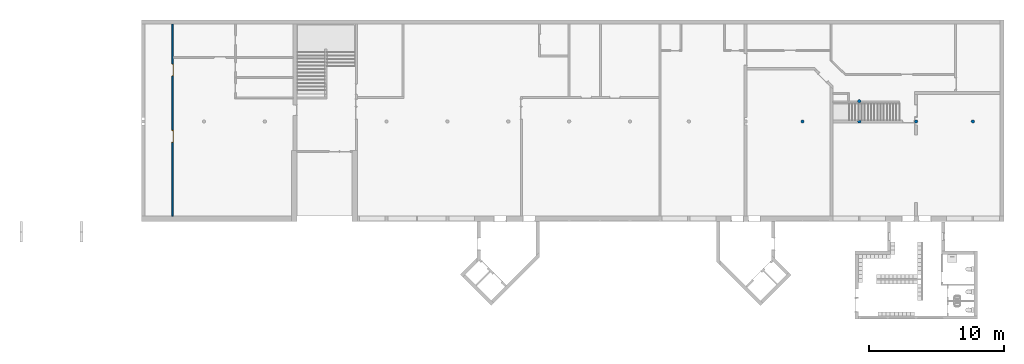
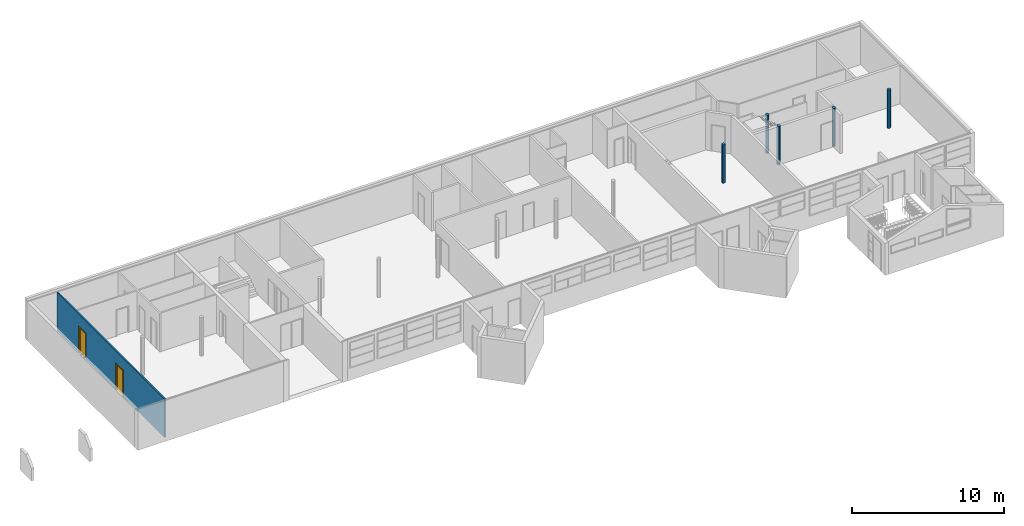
# One storey, part 6 of 25: 5 columns, 2 doors, 1 wall, 2 openings.
"""IFC2X3 building model written with IfcOpenShell, lengths in millimetres."""

from ifc_helpers import new_model, entity, si_unit, converted_unit, derived_unit, money_unit, direction, frame, origin_with_axes, place, context, subcontext, project, spatial, faceted_brep, source, transform, mapped, material, type_object, element, fill, save


model = new_model("IFC2X3")

# Units and contexts
model_context = context("Model", 3, precision=0.01, world=origin_with_axes(), true_north=direction((0.0, 1.0)))
body_context = subcontext(model_context, "Body", "Model", "MODEL_VIEW")
ifc_project = project(units=[si_unit("LENGTHUNIT", "METRE", prefix="MILLI"), si_unit("AREAUNIT", "SQUARE_METRE"), si_unit("VOLUMEUNIT", "CUBIC_METRE"), converted_unit("PLANEANGLEUNIT", "DEGREE", entity("IfcPlaneAngleMeasure", 0.0174532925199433), si_unit("PLANEANGLEUNIT", "RADIAN"), dimensions=[0, 0, 0, 0, 0, 0, 0]), money_unit("USD"), converted_unit("TIMEUNIT", "Year", entity("IfcTimeMeasure", 31557600.0), si_unit("TIMEUNIT", "SECOND"), dimensions=[0, 0, 1, 0, 0, 0, 0]), si_unit("MASSUNIT", "GRAM", prefix="KILO"), si_unit("THERMODYNAMICTEMPERATUREUNIT", "DEGREE_CELSIUS"), si_unit("LUMINOUSINTENSITYUNIT", "LUMEN"), si_unit("ENERGYUNIT", "JOULE", prefix="MEGA"), derived_unit("THERMALCONDUCTANCEUNIT", [(si_unit("POWERUNIT", "WATT"), 1), (si_unit("LENGTHUNIT", "METRE"), -1), (si_unit("THERMODYNAMICTEMPERATUREUNIT", "KELVIN"), -1)]), derived_unit("SPECIFICHEATCAPACITYUNIT", [(si_unit("ENERGYUNIT", "JOULE"), 1), (si_unit("MASSUNIT", "GRAM", prefix="KILO"), -1), (si_unit("THERMODYNAMICTEMPERATUREUNIT", "KELVIN"), -1)]), derived_unit("MASSDENSITYUNIT", [(si_unit("MASSUNIT", "GRAM", prefix="KILO"), 1), (si_unit("VOLUMEUNIT", "CUBIC_METRE"), -1)])], contexts=[model_context])

# Site, building, storey
site_placement = place(None, origin_with_axes())
site = spatial("IfcSite", under=ifc_project, at=site_placement, Name="Site", CompositionType="ELEMENT")
building_placement = place(site_placement, origin_with_axes())
building = spatial("IfcBuilding", under=site, at=building_placement, Name="Building", CompositionType="ELEMENT")
storey_placement = place(building_placement, origin_with_axes())
storey = spatial("IfcBuildingStorey", under=building, at=storey_placement, Name="U ETG", CompositionType="ELEMENT", Elevation=0.0)

# Columns
ifc_material_1 = material(Name="GENERIC - STRUCTURAL")
column_type = type_object("IfcColumnType", Name="GENERIC - STRUCTURAL D250", PredefinedType="COLUMN")
column_1_placement = place(storey_placement, frame((57750.0, 14500.0, 0.0), z_axis=(0.0, 0.0, 1.0), x_axis=(1.0, 0.0, 0.0)))
element("IfcColumn", 1, at=column_1_placement, inside=storey, type_object=column_type, material=ifc_material_1, Name="CRE - 001", ObjectType="COLUMN", context=body_context, shape_type="Brep", body=[
    faceted_brep([(-121.86598902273, -27.81511674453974, 3100.0), (-125.0, 0.0, 3100.0), (-125.0, 0.0, 0.0), (-121.86598902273, -27.81511674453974, 0.0), (-112.6211084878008, 54.2354673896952, 3100.0), (-121.86598902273, 27.81511674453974, 3100.0), (-112.6211084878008, -54.2354673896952, 3100.0), (-97.72893530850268, -77.93622523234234, 3100.0), (-77.93622523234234, -97.72893530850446, 3100.0), (-54.2354673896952, -112.6211084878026, 3100.0), (-27.81511674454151, -121.8659890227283, 3100.0), (0.0, -125.0, 3100.0), (27.81511674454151, -121.8659890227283, 3100.0), (54.2354673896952, -112.6211084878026, 3100.0), (77.93622523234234, -97.72893530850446, 3100.0), (97.72893530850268, -77.93622523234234, 3100.0), (112.6211084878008, -54.2354673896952, 3100.0), (121.86598902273, -27.81511674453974, 3100.0), (125.0, 0.0, 3100.0), (121.86598902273, 27.81511674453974, 3100.0), (112.6211084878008, 54.2354673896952, 3100.0), (97.72893530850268, 77.93622523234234, 3100.0), (77.93622523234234, 97.72893530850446, 3100.0), (54.2354673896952, 112.6211084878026, 3100.0), (27.81511674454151, 121.8659890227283, 3100.0), (0.0, 125.0, 3100.0), (-27.81511674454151, 121.8659890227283, 3100.0), (-54.2354673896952, 112.6211084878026, 3100.0), (-77.93622523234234, 97.72893530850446, 3100.0), (-97.72893530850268, 77.93622523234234, 3100.0), (-121.86598902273, 27.81511674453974, 0.0), (-112.6211084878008, -54.2354673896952, 0.0), (-112.6211084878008, 54.2354673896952, 0.0), (-97.72893530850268, 77.93622523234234, 0.0), (-77.93622523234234, 97.72893530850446, 0.0), (-54.2354673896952, 112.6211084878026, 0.0), (-27.81511674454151, 121.8659890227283, 0.0), (0.0, 125.0, 0.0), (27.81511674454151, 121.8659890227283, 0.0), (54.2354673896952, 112.6211084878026, 0.0), (77.93622523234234, 97.72893530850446, 0.0), (97.72893530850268, 77.93622523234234, 0.0), (112.6211084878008, 54.2354673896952, 0.0), (121.86598902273, 27.81511674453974, 0.0), (125.0, 0.0, 0.0), (121.86598902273, -27.81511674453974, 0.0), (112.6211084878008, -54.2354673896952, 0.0), (97.72893530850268, -77.93622523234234, 0.0), (77.93622523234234, -97.72893530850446, 0.0), (54.2354673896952, -112.6211084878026, 0.0), (27.81511674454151, -121.8659890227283, 0.0), (0.0, -125.0, 0.0), (-27.81511674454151, -121.8659890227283, 0.0), (-54.2354673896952, -112.6211084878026, 0.0), (-77.93622523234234, -97.72893530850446, 0.0), (-97.72893530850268, -77.93622523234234, 0.0)], [[[0, 1, 2, 3]], [[4, 5, 1, 0, 6, 7, 8, 9, 10, 11, 12, 13, 14, 15, 16, 17, 18, 19, 20, 21, 22, 23, 24, 25, 26, 27, 28, 29]], [[1, 5, 30, 2]], [[31, 3, 2, 30, 32, 33, 34, 35, 36, 37, 38, 39, 40, 41, 42, 43, 44, 45, 46, 47, 48, 49, 50, 51, 52, 53, 54, 55]], [[6, 0, 3, 31]], [[5, 4, 32, 30]], [[7, 6, 31, 55]], [[8, 7, 55, 54]], [[9, 8, 54, 53]], [[10, 9, 53, 52]], [[11, 10, 52, 51]], [[12, 11, 51, 50]], [[13, 12, 50, 49]], [[14, 13, 49, 48]], [[15, 14, 48, 47]], [[16, 15, 47, 46]], [[17, 16, 46, 45]], [[18, 17, 45, 44]], [[19, 18, 44, 43]], [[20, 19, 43, 42]], [[21, 20, 42, 41]], [[22, 21, 41, 40]], [[23, 22, 40, 39]], [[24, 23, 39, 38]], [[25, 24, 38, 37]], [[26, 25, 37, 36]], [[27, 26, 36, 35]], [[28, 27, 35, 34]], [[29, 28, 34, 33]], [[4, 29, 33, 32]]]),
])
column_2_placement = place(storey_placement, frame((61950.0, 14500.0, 0.0), z_axis=(0.0, 0.0, 1.0), x_axis=(1.0, 0.0, 0.0)))
element("IfcColumn", 2, at=column_2_placement, inside=storey, type_object=column_type, material=ifc_material_1, Name="CRE - 001", ObjectType="COLUMN", context=body_context, shape_type="Brep", body=[
    faceted_brep([(-121.86598902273, -27.81511674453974, 3100.0), (-125.0, 0.0, 3100.0), (-125.0, 0.0, 0.0), (-121.86598902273, -27.81511674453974, 0.0), (-112.6211084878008, 54.2354673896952, 3100.0), (-121.86598902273, 27.81511674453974, 3100.0), (-112.6211084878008, -54.2354673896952, 3100.0), (-97.72893530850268, -77.93622523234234, 3100.0), (-77.93622523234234, -97.72893530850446, 3100.0), (-54.2354673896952, -112.6211084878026, 3100.0), (-27.81511674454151, -121.8659890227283, 3100.0), (0.0, -125.0, 3100.0), (27.81511674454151, -121.8659890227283, 3100.0), (54.2354673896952, -112.6211084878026, 3100.0), (77.93622523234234, -97.72893530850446, 3100.0), (97.72893530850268, -77.93622523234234, 3100.0), (112.6211084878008, -54.2354673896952, 3100.0), (121.86598902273, -27.81511674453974, 3100.0), (125.0, 0.0, 3100.0), (121.86598902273, 27.81511674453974, 3100.0), (112.6211084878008, 54.2354673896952, 3100.0), (97.72893530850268, 77.93622523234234, 3100.0), (77.93622523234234, 97.72893530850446, 3100.0), (54.2354673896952, 112.6211084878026, 3100.0), (27.81511674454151, 121.8659890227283, 3100.0), (0.0, 125.0, 3100.0), (-27.81511674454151, 121.8659890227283, 3100.0), (-54.2354673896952, 112.6211084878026, 3100.0), (-77.93622523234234, 97.72893530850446, 3100.0), (-97.72893530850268, 77.93622523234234, 3100.0), (-121.86598902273, 27.81511674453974, 0.0), (-112.6211084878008, -54.2354673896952, 0.0), (-112.6211084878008, 54.2354673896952, 0.0), (-97.72893530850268, 77.93622523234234, 0.0), (-77.93622523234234, 97.72893530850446, 0.0), (-54.2354673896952, 112.6211084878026, 0.0), (-27.81511674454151, 121.8659890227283, 0.0), (0.0, 125.0, 0.0), (27.81511674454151, 121.8659890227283, 0.0), (54.2354673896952, 112.6211084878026, 0.0), (77.93622523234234, 97.72893530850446, 0.0), (97.72893530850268, 77.93622523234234, 0.0), (112.6211084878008, 54.2354673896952, 0.0), (121.86598902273, 27.81511674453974, 0.0), (125.0, 0.0, 0.0), (121.86598902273, -27.81511674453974, 0.0), (112.6211084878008, -54.2354673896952, 0.0), (97.72893530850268, -77.93622523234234, 0.0), (77.93622523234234, -97.72893530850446, 0.0), (54.2354673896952, -112.6211084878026, 0.0), (27.81511674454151, -121.8659890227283, 0.0), (0.0, -125.0, 0.0), (-27.81511674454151, -121.8659890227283, 0.0), (-54.2354673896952, -112.6211084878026, 0.0), (-77.93622523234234, -97.72893530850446, 0.0), (-97.72893530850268, -77.93622523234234, 0.0)], [[[0, 1, 2, 3]], [[4, 5, 1, 0, 6, 7, 8, 9, 10, 11, 12, 13, 14, 15, 16, 17, 18, 19, 20, 21, 22, 23, 24, 25, 26, 27, 28, 29]], [[1, 5, 30, 2]], [[31, 3, 2, 30, 32, 33, 34, 35, 36, 37, 38, 39, 40, 41, 42, 43, 44, 45, 46, 47, 48, 49, 50, 51, 52, 53, 54, 55]], [[6, 0, 3, 31]], [[5, 4, 32, 30]], [[7, 6, 31, 55]], [[8, 7, 55, 54]], [[9, 8, 54, 53]], [[10, 9, 53, 52]], [[11, 10, 52, 51]], [[12, 11, 51, 50]], [[13, 12, 50, 49]], [[14, 13, 49, 48]], [[15, 14, 48, 47]], [[16, 15, 47, 46]], [[17, 16, 46, 45]], [[18, 17, 45, 44]], [[19, 18, 44, 43]], [[20, 19, 43, 42]], [[21, 20, 42, 41]], [[22, 21, 41, 40]], [[23, 22, 40, 39]], [[24, 23, 39, 38]], [[25, 24, 38, 37]], [[26, 25, 37, 36]], [[27, 26, 36, 35]], [[28, 27, 35, 34]], [[29, 28, 34, 33]], [[4, 29, 33, 32]]]),
])
column_3_placement = place(storey_placement, frame((70350.00000000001, 14500.0, 0.0), z_axis=(0.0, 0.0, 1.0), x_axis=(1.0, 0.0, 0.0)))
element("IfcColumn", 3, at=column_3_placement, inside=storey, type_object=column_type, material=ifc_material_1, Name="CRE - 001", ObjectType="COLUMN", context=body_context, shape_type="Brep", body=[
    faceted_brep([(-121.8659890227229, -27.81511674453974, 3100.0), (-125.0, 0.0, 3100.0), (-125.0, 0.0, 0.0), (-121.8659890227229, -27.81511674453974, 0.0), (-112.6211084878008, 54.2354673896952, 3100.0), (-121.8659890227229, 27.81511674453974, 3100.0), (-112.6211084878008, -54.2354673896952, 3100.0), (-97.72893530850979, -77.93622523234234, 3100.0), (-77.93622523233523, -97.72893530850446, 3100.0), (-54.2354673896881, -112.6211084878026, 3100.0), (-27.81511674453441, -121.8659890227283, 3100.0), (0.0, -125.0, 3100.0), (27.81511674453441, -121.8659890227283, 3100.0), (54.2354673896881, -112.6211084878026, 3100.0), (77.93622523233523, -97.72893530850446, 3100.0), (97.72893530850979, -77.93622523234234, 3100.0), (112.6211084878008, -54.2354673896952, 3100.0), (121.8659890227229, -27.81511674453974, 3100.0), (125.0, 0.0, 3100.0), (121.8659890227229, 27.81511674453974, 3100.0), (112.6211084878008, 54.2354673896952, 3100.0), (97.72893530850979, 77.93622523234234, 3100.0), (77.93622523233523, 97.72893530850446, 3100.0), (54.2354673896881, 112.6211084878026, 3100.0), (27.81511674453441, 121.8659890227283, 3100.0), (0.0, 125.0, 3100.0), (-27.81511674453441, 121.8659890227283, 3100.0), (-54.2354673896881, 112.6211084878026, 3100.0), (-77.93622523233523, 97.72893530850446, 3100.0), (-97.72893530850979, 77.93622523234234, 3100.0), (-121.8659890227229, 27.81511674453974, 0.0), (-112.6211084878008, -54.2354673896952, 0.0), (-112.6211084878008, 54.2354673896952, 0.0), (-97.72893530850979, 77.93622523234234, 0.0), (-77.93622523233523, 97.72893530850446, 0.0), (-54.2354673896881, 112.6211084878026, 0.0), (-27.81511674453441, 121.8659890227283, 0.0), (0.0, 125.0, 0.0), (27.81511674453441, 121.8659890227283, 0.0), (54.2354673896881, 112.6211084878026, 0.0), (77.93622523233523, 97.72893530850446, 0.0), (97.72893530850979, 77.93622523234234, 0.0), (112.6211084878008, 54.2354673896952, 0.0), (121.8659890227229, 27.81511674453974, 0.0), (125.0, 0.0, 0.0), (121.8659890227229, -27.81511674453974, 0.0), (112.6211084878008, -54.2354673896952, 0.0), (97.72893530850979, -77.93622523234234, 0.0), (77.93622523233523, -97.72893530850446, 0.0), (54.2354673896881, -112.6211084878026, 0.0), (27.81511674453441, -121.8659890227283, 0.0), (0.0, -125.0, 0.0), (-27.81511674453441, -121.8659890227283, 0.0), (-54.2354673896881, -112.6211084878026, 0.0), (-77.93622523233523, -97.72893530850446, 0.0), (-97.72893530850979, -77.93622523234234, 0.0)], [[[0, 1, 2, 3]], [[4, 5, 1, 0, 6, 7, 8, 9, 10, 11, 12, 13, 14, 15, 16, 17, 18, 19, 20, 21, 22, 23, 24, 25, 26, 27, 28, 29]], [[1, 5, 30, 2]], [[31, 3, 2, 30, 32, 33, 34, 35, 36, 37, 38, 39, 40, 41, 42, 43, 44, 45, 46, 47, 48, 49, 50, 51, 52, 53, 54, 55]], [[6, 0, 3, 31]], [[5, 4, 32, 30]], [[7, 6, 31, 55]], [[8, 7, 55, 54]], [[9, 8, 54, 53]], [[10, 9, 53, 52]], [[11, 10, 52, 51]], [[12, 11, 51, 50]], [[13, 12, 50, 49]], [[14, 13, 49, 48]], [[15, 14, 48, 47]], [[16, 15, 47, 46]], [[17, 16, 46, 45]], [[18, 17, 45, 44]], [[19, 18, 44, 43]], [[20, 19, 43, 42]], [[21, 20, 42, 41]], [[22, 21, 41, 40]], [[23, 22, 40, 39]], [[24, 23, 39, 38]], [[25, 24, 38, 37]], [[26, 25, 37, 36]], [[27, 26, 36, 35]], [[28, 27, 35, 34]], [[29, 28, 34, 33]], [[4, 29, 33, 32]]]),
])
column_4_placement = place(storey_placement, frame((66150.0, 14500.0, 0.0), z_axis=(0.0, 0.0, 1.0), x_axis=(1.0, 0.0, 0.0)))
element("IfcColumn", 4, at=column_4_placement, inside=storey, type_object=column_type, material=ifc_material_1, Name="CRE - 001", ObjectType="COLUMN", context=body_context, shape_type="Brep", body=[
    faceted_brep([(-121.8659890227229, -27.81511674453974, 3100.0), (-125.0, 0.0, 3100.0), (-125.0, 0.0, 0.0), (-121.8659890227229, -27.81511674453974, 0.0), (-112.6211084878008, 54.2354673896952, 3100.0), (-121.8659890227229, 27.81511674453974, 3100.0), (-112.6211084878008, -54.2354673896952, 3100.0), (-97.72893530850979, -77.93622523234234, 3100.0), (-77.93622523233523, -97.72893530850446, 3100.0), (-54.2354673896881, -112.6211084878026, 3100.0), (-27.81511674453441, -121.8659890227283, 3100.0), (0.0, -125.0, 3100.0), (27.81511674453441, -121.8659890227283, 3100.0), (54.2354673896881, -112.6211084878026, 3100.0), (77.93622523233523, -97.72893530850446, 3100.0), (97.72893530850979, -77.93622523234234, 3100.0), (112.6211084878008, -54.2354673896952, 3100.0), (121.8659890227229, -27.81511674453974, 3100.0), (125.0, 0.0, 3100.0), (121.8659890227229, 27.81511674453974, 3100.0), (112.6211084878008, 54.2354673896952, 3100.0), (97.72893530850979, 77.93622523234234, 3100.0), (77.93622523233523, 97.72893530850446, 3100.0), (54.2354673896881, 112.6211084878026, 3100.0), (27.81511674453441, 121.8659890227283, 3100.0), (0.0, 125.0, 3100.0), (-27.81511674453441, 121.8659890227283, 3100.0), (-54.2354673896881, 112.6211084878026, 3100.0), (-77.93622523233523, 97.72893530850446, 3100.0), (-97.72893530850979, 77.93622523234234, 3100.0), (-121.8659890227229, 27.81511674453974, 0.0), (-112.6211084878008, -54.2354673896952, 0.0), (-112.6211084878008, 54.2354673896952, 0.0), (-97.72893530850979, 77.93622523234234, 0.0), (-77.93622523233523, 97.72893530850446, 0.0), (-54.2354673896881, 112.6211084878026, 0.0), (-27.81511674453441, 121.8659890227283, 0.0), (0.0, 125.0, 0.0), (27.81511674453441, 121.8659890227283, 0.0), (54.2354673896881, 112.6211084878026, 0.0), (77.93622523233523, 97.72893530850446, 0.0), (97.72893530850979, 77.93622523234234, 0.0), (112.6211084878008, 54.2354673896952, 0.0), (121.8659890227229, 27.81511674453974, 0.0), (125.0, 0.0, 0.0), (121.8659890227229, -27.81511674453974, 0.0), (112.6211084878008, -54.2354673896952, 0.0), (97.72893530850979, -77.93622523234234, 0.0), (77.93622523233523, -97.72893530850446, 0.0), (54.2354673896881, -112.6211084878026, 0.0), (27.81511674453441, -121.8659890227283, 0.0), (0.0, -125.0, 0.0), (-27.81511674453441, -121.8659890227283, 0.0), (-54.2354673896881, -112.6211084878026, 0.0), (-77.93622523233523, -97.72893530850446, 0.0), (-97.72893530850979, -77.93622523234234, 0.0)], [[[0, 1, 2, 3]], [[4, 5, 1, 0, 6, 7, 8, 9, 10, 11, 12, 13, 14, 15, 16, 17, 18, 19, 20, 21, 22, 23, 24, 25, 26, 27, 28, 29]], [[1, 5, 30, 2]], [[31, 3, 2, 30, 32, 33, 34, 35, 36, 37, 38, 39, 40, 41, 42, 43, 44, 45, 46, 47, 48, 49, 50, 51, 52, 53, 54, 55]], [[6, 0, 3, 31]], [[5, 4, 32, 30]], [[7, 6, 31, 55]], [[8, 7, 55, 54]], [[9, 8, 54, 53]], [[10, 9, 53, 52]], [[11, 10, 52, 51]], [[12, 11, 51, 50]], [[13, 12, 50, 49]], [[14, 13, 49, 48]], [[15, 14, 48, 47]], [[16, 15, 47, 46]], [[17, 16, 46, 45]], [[18, 17, 45, 44]], [[19, 18, 44, 43]], [[20, 19, 43, 42]], [[21, 20, 42, 41]], [[22, 21, 41, 40]], [[23, 22, 40, 39]], [[24, 23, 39, 38]], [[25, 24, 38, 37]], [[26, 25, 37, 36]], [[27, 26, 36, 35]], [[28, 27, 35, 34]], [[29, 28, 34, 33]], [[4, 29, 33, 32]]]),
])
column_5_placement = place(storey_placement, frame((61950.0, 16000.0, 0.0), z_axis=(0.0, 0.0, 1.0), x_axis=(1.0, 0.0, 0.0)))
element("IfcColumn", 5, at=column_5_placement, inside=storey, type_object=column_type, material=ifc_material_1, Name="CRE - 001", ObjectType="COLUMN", context=body_context, shape_type="Brep", body=[
    faceted_brep([(-121.86598902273, -27.81511674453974, 3100.0), (-125.0, 0.0, 3100.0), (-125.0, 0.0, 0.0), (-121.86598902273, -27.81511674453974, 0.0), (-112.6211084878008, 54.2354673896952, 3100.0), (-121.86598902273, 27.81511674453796, 3100.0), (-112.6211084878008, -54.2354673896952, 3100.0), (-97.72893530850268, -77.93622523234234, 3100.0), (-77.93622523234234, -97.72893530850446, 3100.0), (-54.2354673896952, -112.6211084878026, 3100.0), (-27.81511674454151, -121.8659890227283, 3100.0), (0.0, -125.0, 3100.0), (27.81511674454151, -121.8659890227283, 3100.0), (54.2354673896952, -112.6211084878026, 3100.0), (77.93622523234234, -97.72893530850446, 3100.0), (97.72893530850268, -77.93622523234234, 3100.0), (112.6211084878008, -54.2354673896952, 3100.0), (121.86598902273, -27.81511674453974, 3100.0), (125.0, 0.0, 3100.0), (121.86598902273, 27.81511674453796, 3100.0), (112.6211084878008, 54.2354673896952, 3100.0), (97.72893530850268, 77.93622523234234, 3100.0), (77.93622523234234, 97.72893530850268, 3100.0), (54.2354673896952, 112.6211084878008, 3100.0), (27.81511674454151, 121.8659890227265, 3100.0), (0.0, 125.0, 3100.0), (-27.81511674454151, 121.8659890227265, 3100.0), (-54.2354673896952, 112.6211084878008, 3100.0), (-77.93622523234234, 97.72893530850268, 3100.0), (-97.72893530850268, 77.93622523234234, 3100.0), (-121.86598902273, 27.81511674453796, 0.0), (-112.6211084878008, -54.2354673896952, 0.0), (-112.6211084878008, 54.2354673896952, 0.0), (-97.72893530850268, 77.93622523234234, 0.0), (-77.93622523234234, 97.72893530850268, 0.0), (-54.2354673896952, 112.6211084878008, 0.0), (-27.81511674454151, 121.8659890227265, 0.0), (0.0, 125.0, 0.0), (27.81511674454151, 121.8659890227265, 0.0), (54.2354673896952, 112.6211084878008, 0.0), (77.93622523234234, 97.72893530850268, 0.0), (97.72893530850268, 77.93622523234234, 0.0), (112.6211084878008, 54.2354673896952, 0.0), (121.86598902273, 27.81511674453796, 0.0), (125.0, 0.0, 0.0), (121.86598902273, -27.81511674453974, 0.0), (112.6211084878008, -54.2354673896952, 0.0), (97.72893530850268, -77.93622523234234, 0.0), (77.93622523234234, -97.72893530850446, 0.0), (54.2354673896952, -112.6211084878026, 0.0), (27.81511674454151, -121.8659890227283, 0.0), (0.0, -125.0, 0.0), (-27.81511674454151, -121.8659890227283, 0.0), (-54.2354673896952, -112.6211084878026, 0.0), (-77.93622523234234, -97.72893530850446, 0.0), (-97.72893530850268, -77.93622523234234, 0.0)], [[[0, 1, 2, 3]], [[4, 5, 1, 0, 6, 7, 8, 9, 10, 11, 12, 13, 14, 15, 16, 17, 18, 19, 20, 21, 22, 23, 24, 25, 26, 27, 28, 29]], [[1, 5, 30, 2]], [[31, 3, 2, 30, 32, 33, 34, 35, 36, 37, 38, 39, 40, 41, 42, 43, 44, 45, 46, 47, 48, 49, 50, 51, 52, 53, 54, 55]], [[6, 0, 3, 31]], [[5, 4, 32, 30]], [[7, 6, 31, 55]], [[8, 7, 55, 54]], [[9, 8, 54, 53]], [[10, 9, 53, 52]], [[11, 10, 52, 51]], [[12, 11, 51, 50]], [[13, 12, 50, 49]], [[14, 13, 49, 48]], [[15, 14, 48, 47]], [[16, 15, 47, 46]], [[17, 16, 46, 45]], [[18, 17, 45, 44]], [[19, 18, 44, 43]], [[20, 19, 43, 42]], [[21, 20, 42, 41]], [[22, 21, 41, 40]], [[23, 22, 40, 39]], [[24, 23, 39, 38]], [[25, 24, 38, 37]], [[26, 25, 37, 36]], [[27, 26, 36, 35]], [[28, 27, 35, 34]], [[29, 28, 34, 33]], [[4, 29, 33, 32]]]),
])

# Wall, openings, doors
ifc_material_2 = material(Name="GENERIC - INTERNAL FILLER")
wall_type = type_object("IfcWallType", Name="GENERIC - INTERNAL FILLER 110", PredefinedType="NOTDEFINED")
wall_placement = place(storey_placement, frame((11130.0, 7499.570929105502, 0.0), z_axis=(0.0, 0.0, 1.0), x_axis=(0.0, 1.0, 0.0)))
wall = element("IfcWall", 6, at=wall_placement, inside=storey, type_object=wall_type, material=ifc_material_2, Name="SW - 001", context=body_context, shape_type="Brep", body=[
    faceted_brep([(5450.169351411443, -109.9999999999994, 0.0), (5450.169351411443, -109.9999999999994, 2100.0), (6350.169351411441, -109.9999999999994, 2100.0), (6350.169351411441, -109.9999999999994, 0.0), (10350.16935141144, -109.9999999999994, 0.0), (10350.16935141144, -109.9999999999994, 2100.0), (11250.16935141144, -109.9999999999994, 2100.0), (11250.16935141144, -109.9999999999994, 0.0), (14200.4290708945, -109.9999999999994, 0.0), (14200.4290708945, -109.9999999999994, 3100.0), (0.0, -109.9999999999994, 3100.0), (0.0, -109.9999999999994, 0.0), (5450.169351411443, 0.0, 0.0), (5450.169351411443, 0.0, 2100.0), (6350.169351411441, 0.0, 2100.0), (6350.169351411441, 0.0, 0.0), (10350.16935141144, 0.0, 0.0), (10350.16935141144, 0.0, 2100.0), (11250.16935141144, 0.0, 2100.0), (11250.16935141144, 0.0, 0.0), (14200.4290708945, 0.0, 0.0), (14200.4290708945, 0.0, 3100.0), (0.0, 0.0, 3100.0), (0.0, 0.0, 0.0)], [[[0, 1, 2, 3, 4, 5, 6, 7, 8, 9, 10, 11]], [[1, 0, 12, 13]], [[2, 1, 13, 14]], [[3, 2, 14, 15]], [[3, 15, 16, 4]], [[4, 16, 17, 5]], [[5, 17, 18, 6]], [[6, 18, 19, 7]], [[19, 20, 8, 7]], [[8, 20, 21, 9]], [[22, 10, 9, 21]], [[22, 23, 11, 10]], [[12, 0, 11, 23]], [[13, 12, 23, 22, 21, 20, 19, 18, 17, 16, 15, 14]]]),
])
opening_1_placement = place(wall_placement, frame((10800.16935141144, 0.0, 0.0), z_axis=(0.0, 0.0, 1.0), x_axis=(1.0, 0.0, 0.0)))
opening_1 = element("IfcOpeningElement", 7, at=opening_1_placement, cuts=wall, Name="DOO - 002", context=body_context, shape_type="Brep", body=[
    faceted_brep([(449.9999999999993, -110.9999999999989, 0.0), (449.9999999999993, -110.9999999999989, 2100.0), (-449.9999999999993, -110.9999999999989, 2100.0), (-449.9999999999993, -110.9999999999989, 0.0), (486.9999999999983, -110.9999999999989, 0.0), (486.9999999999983, -110.9999999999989, 2137.0), (-486.9999999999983, -110.9999999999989, 2137.0), (-486.9999999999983, -110.9999999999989, 0.0), (449.9999999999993, -109.9999999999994, 0.0), (-449.9999999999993, -109.9999999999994, 0.0), (-449.9999999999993, 0.0, 0.0), (-449.9999999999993, 0.9999999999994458, 0.0), (449.9999999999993, 0.9999999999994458, 0.0), (449.9999999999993, 0.0, 0.0), (486.9999999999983, -109.9999999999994, 0.0), (486.9999999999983, -109.9999999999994, 2137.0), (-486.9999999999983, -109.9999999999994, 2137.0), (-486.9999999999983, -109.9999999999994, 0.0), (-449.9999999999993, -109.9999999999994, 2100.0), (-449.9999999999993, 0.0, 2100.0), (-486.9999999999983, 0.0, 0.0), (-486.9999999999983, 0.9999999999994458, 0.0), (-486.9999999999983, 1.000000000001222, 2137.0), (486.9999999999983, 0.9999999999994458, 2137.0), (486.9999999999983, 0.9999999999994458, 0.0), (486.9999999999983, 0.0, 0.0), (449.9999999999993, -109.9999999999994, 2100.0), (449.9999999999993, 0.0, 2100.0), (486.9999999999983, 0.0, 2137.0), (-486.9999999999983, 0.0, 2137.0)], [[[0, 1, 2, 3]], [[2, 1, 0, 4, 5, 6, 7, 3]], [[8, 0, 3, 9, 10, 11, 12, 13]], [[0, 8, 14, 4]], [[14, 15, 5, 4]], [[15, 16, 6, 5]], [[16, 17, 7, 6]], [[9, 3, 7, 17]], [[9, 18, 19, 10]], [[11, 10, 20, 21]], [[12, 11, 21, 22, 23, 24]], [[13, 12, 24, 25]], [[26, 8, 13, 27]], [[8, 26, 18, 9, 17, 16, 15, 14]], [[18, 26, 27, 19]], [[19, 27, 13, 25, 28, 29, 20, 10]], [[20, 29, 22, 21]], [[29, 28, 23, 22]], [[28, 25, 24, 23]]]),
])
opening_2_placement = place(wall_placement, frame((5900.169351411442, 0.0, 0.0), z_axis=(0.0, 0.0, 1.0), x_axis=(1.0, 0.0, 0.0)))
opening_2 = element("IfcOpeningElement", 8, at=opening_2_placement, cuts=wall, Name="DOO - 002", context=body_context, shape_type="Brep", body=[
    faceted_brep([(449.9999999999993, -110.9999999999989, 0.0), (449.9999999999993, -110.9999999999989, 2100.0), (-449.9999999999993, -110.9999999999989, 2100.0), (-449.9999999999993, -110.9999999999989, 0.0), (487.0000000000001, -110.9999999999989, 0.0), (487.0000000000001, -110.9999999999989, 2137.0), (-487.0000000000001, -110.9999999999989, 2137.0), (-487.0000000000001, -110.9999999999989, 0.0), (449.9999999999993, -109.9999999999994, 0.0), (-449.9999999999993, -109.9999999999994, 0.0), (-449.9999999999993, 0.0, 0.0), (-449.9999999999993, 0.9999999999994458, 0.0), (449.9999999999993, 0.9999999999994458, 0.0), (449.9999999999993, 0.0, 0.0), (487.0000000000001, -109.9999999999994, 0.0), (487.0000000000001, -109.9999999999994, 2137.0), (-487.0000000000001, -109.9999999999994, 2137.0), (-487.0000000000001, -109.9999999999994, 0.0), (-449.9999999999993, -109.9999999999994, 2100.0), (-449.9999999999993, 0.0, 2100.0), (-487.0000000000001, 0.0, 0.0), (-487.0000000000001, 0.9999999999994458, 0.0), (-487.0000000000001, 1.000000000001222, 2137.0), (487.0000000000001, 0.9999999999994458, 2137.0), (487.0000000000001, 0.9999999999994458, 0.0), (487.0000000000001, 0.0, 0.0), (449.9999999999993, -109.9999999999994, 2100.0), (449.9999999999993, 0.0, 2100.0), (487.0000000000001, 0.0, 2137.0), (-487.0000000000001, 0.0, 2137.0)], [[[0, 1, 2, 3]], [[2, 1, 0, 4, 5, 6, 7, 3]], [[8, 0, 3, 9, 10, 11, 12, 13]], [[0, 8, 14, 4]], [[14, 15, 5, 4]], [[15, 16, 6, 5]], [[16, 17, 7, 6]], [[9, 3, 7, 17]], [[9, 18, 19, 10]], [[11, 10, 20, 21]], [[12, 11, 21, 22, 23, 24]], [[13, 12, 24, 25]], [[26, 8, 13, 27]], [[8, 26, 18, 9, 17, 16, 15, 14]], [[18, 26, 27, 19]], [[19, 27, 13, 25, 28, 29, 20, 10]], [[20, 29, 22, 21]], [[29, 28, 23, 22]], [[28, 25, 24, 23]]]),
])
door_style = type_object("IfcDoorStyle", Name="Dør", ConstructionType="NOTDEFINED", OperationType="SINGLE_SWING_LEFT", ParameterTakesPrecedence=False, Sizeable=False)
shared_shape = source(origin_with_axes(), body_context, "Body", "Brep", [
    faceted_brep([(487.0, -129.0, 0.0), (437.0, -129.0, 0.0), (437.0, -110.0, 0.0), (487.0, -110.0, 0.0), (487.0, -129.0000000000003, 2137.0), (437.0, -129.0000000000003, 2087.0), (437.0, -110.0000000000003, 2087.0), (487.0, -110.0000000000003, 2137.0)], [[[0, 1, 2, 3]], [[0, 4, 5, 1]], [[1, 5, 6, 2]], [[3, 2, 6, 7]], [[4, 0, 3, 7]], [[5, 4, 7, 6]]]),
    faceted_brep([(-487.0, -129.0000000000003, 2137.0), (-437.0, -129.0000000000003, 2087.0), (-437.0, -110.0000000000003, 2087.0), (-487.0, -110.0000000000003, 2137.0), (-487.0, -129.0, 0.0), (-437.0, -129.0, 0.0), (-437.0, -110.0, 0.0), (-487.0, -110.0, 0.0)], [[[0, 1, 2, 3]], [[0, 4, 5, 1]], [[1, 5, 6, 2]], [[3, 2, 6, 7]], [[4, 0, 3, 7]], [[5, 4, 7, 6]]]),
    faceted_brep([(487.0, -129.0000000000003, 2137.0), (437.0, -129.0000000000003, 2087.0), (437.0, -110.0000000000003, 2087.0), (487.0, -110.0000000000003, 2137.0), (-487.0, -129.0000000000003, 2137.0), (-437.0, -129.0000000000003, 2087.0), (-437.0, -110.0000000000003, 2087.0), (-487.0, -110.0000000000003, 2137.0)], [[[0, 1, 2, 3]], [[0, 4, 5, 1]], [[1, 5, 6, 2]], [[3, 2, 6, 7]], [[4, 0, 3, 7]], [[5, 4, 7, 6]]]),
    faceted_brep([(487.0, 19.0, 0.0), (487.0, 0.0, 0.0), (437.0, 0.0, 0.0), (437.0, 19.0, 0.0), (487.0, 18.99999999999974, 2137.0), (487.0, 0.0, 2137.0), (437.0, 0.0, 2087.0), (437.0, 18.99999999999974, 2087.0)], [[[0, 1, 2, 3]], [[4, 5, 1, 0]], [[1, 5, 6, 2]], [[3, 2, 6, 7]], [[0, 3, 7, 4]], [[7, 6, 5, 4]]]),
    faceted_brep([(-487.0, 18.99999999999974, 2137.0), (-487.0, 0.0, 2137.0), (-437.0, 0.0, 2087.0), (-437.0, 18.99999999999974, 2087.0), (-487.0, 19.0, 0.0), (-487.0, 0.0, 0.0), (-437.0, 0.0, 0.0), (-437.0, 19.0, 0.0)], [[[0, 1, 2, 3]], [[4, 5, 1, 0]], [[1, 5, 6, 2]], [[3, 2, 6, 7]], [[0, 3, 7, 4]], [[7, 6, 5, 4]]]),
    faceted_brep([(487.0, 18.99999999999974, 2137.0), (487.0, 0.0, 2137.0), (437.0, 0.0, 2087.0), (437.0, 18.99999999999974, 2087.0), (-487.0, 18.99999999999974, 2137.0), (-487.0, 0.0, 2137.0), (-437.0, 0.0, 2087.0), (-437.0, 18.99999999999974, 2087.0)], [[[0, 1, 2, 3]], [[4, 5, 1, 0]], [[1, 5, 6, 2]], [[3, 2, 6, 7]], [[0, 3, 7, 4]], [[7, 6, 5, 4]]]),
    faceted_brep([(450.0, 0.0, 0.0), (450.0, -115.0, 0.0), (410.0000000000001, -115.0, 0.0), (410.0000000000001, 0.0, 0.0), (450.0, 0.0, 2060.0), (450.0, -115.0, 2060.0), (410.0000000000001, -115.0, 2060.0), (410.0000000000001, 0.0, 2060.0)], [[[0, 1, 2, 3]], [[4, 5, 1, 0]], [[1, 5, 6, 2]], [[3, 2, 6, 7]], [[0, 3, 7, 4]], [[7, 6, 5, 4]]]),
    faceted_brep([(-450.0, 0.0, 0.0), (-450.0, -115.0, 0.0), (-450.0, -115.0, 2060.0), (-450.0, 0.0, 2060.0), (-410.0000000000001, 0.0, 0.0), (-410.0000000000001, -115.0, 0.0), (-410.0000000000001, -115.0, 2060.0), (-410.0000000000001, 0.0, 2060.0)], [[[0, 1, 2, 3]], [[4, 5, 1, 0]], [[1, 5, 6, 2]], [[3, 2, 6, 7]], [[0, 3, 7, 4]], [[7, 6, 5, 4]]]),
    faceted_brep([(450.0, 0.0, 2100.0), (450.0, -115.0, 2100.0), (450.0, -115.0, 2060.0), (450.0, 0.0, 2060.0), (-450.0, 0.0, 2100.0), (-450.0, -115.0, 2100.0), (-450.0, -115.0, 2060.0), (-410.0000000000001, -115.0, 2060.0), (410.0000000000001, -115.0, 2060.0), (410.0000000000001, 0.0, 2060.0), (-410.0000000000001, 0.0, 2060.0), (-450.0, 0.0, 2060.0)], [[[0, 1, 2, 3]], [[4, 5, 1, 0]], [[1, 5, 6, 7, 8, 2]], [[3, 2, 8, 9]], [[0, 3, 9, 10, 11, 4]], [[11, 6, 5, 4]], [[10, 7, 6, 11]], [[9, 8, 7, 10]]]),
    faceted_brep([(-409.9999999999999, 0.0, 0.0), (410.0000000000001, 0.0, 0.0), (410.0000000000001, -40.0, 0.0), (-409.9999999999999, -40.0, 0.0), (-409.9999999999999, 0.0, 2060.0), (410.0000000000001, 0.0, 2060.0), (410.0000000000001, -40.00000000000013, 2060.0), (-409.9999999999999, -40.00000000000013, 2060.0)], [[[0, 1, 2, 3]], [[0, 4, 5, 1]], [[1, 5, 6, 2]], [[3, 2, 6, 7]], [[4, 0, 3, 7]], [[5, 4, 7, 6]]]),
])
door_1_placement = place(opening_1_placement, frame((449.9999999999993, 0.0, 0.0), z_axis=(0.0, 0.0, 1.0), x_axis=(-1.0, 0.0, 0.0)))
door_1 = element("IfcDoor", 9, at=door_1_placement, inside=storey, type_object=door_style, Name="DOO - 002", ObjectType="DOOR", OverallHeight=2100.0, OverallWidth=900.0, context=body_context, shape_type="MappedRepresentation", body=[
    mapped(shared_shape, transform((449.9999999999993, 109.9999999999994, 0.0))),
])
fill(opening_1, door_1)
door_2_placement = place(opening_2_placement, frame((449.9999999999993, 0.0, 0.0), z_axis=(0.0, 0.0, 1.0), x_axis=(-1.0, 0.0, 0.0)))
door_2 = element("IfcDoor", 10, at=door_2_placement, inside=storey, type_object=door_style, Name="DOO - 002", ObjectType="DOOR", OverallHeight=2100.0, OverallWidth=900.0, context=body_context, shape_type="MappedRepresentation", body=[
    mapped(shared_shape, transform((449.9999999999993, 109.9999999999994, 0.0))),
])
fill(opening_2, door_2)

save(model, "model.ifc")
